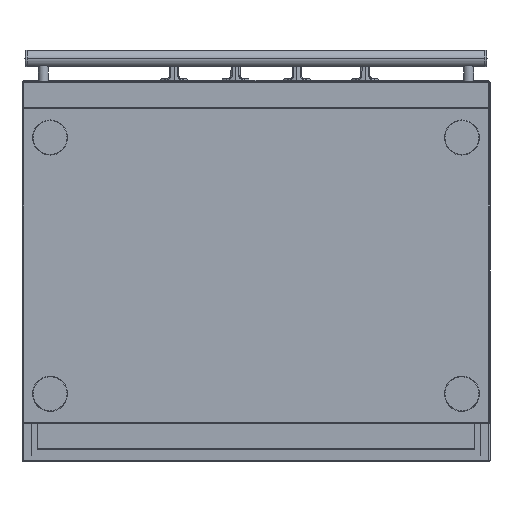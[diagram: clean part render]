
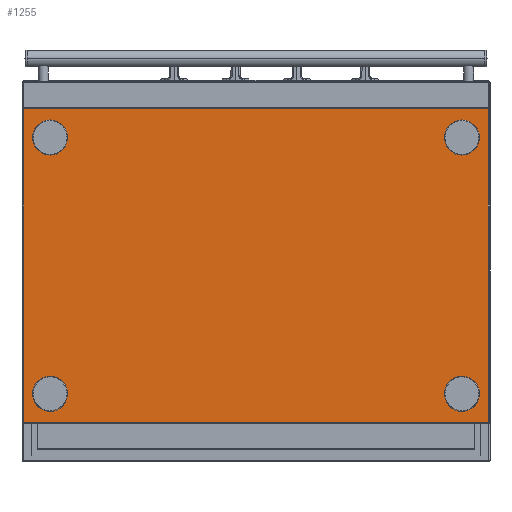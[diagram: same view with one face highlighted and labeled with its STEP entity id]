
A CAD part, front view. The second image highlights one B-rep face of the part: STEP entity #1255.
In plain terms, the highlighted planar face has unit normal (0, -1, 0).
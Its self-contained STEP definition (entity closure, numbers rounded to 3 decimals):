
#46=CARTESIAN_POINT('',(352.,-352.5,-219.));
#47=DIRECTION('',(0.,-1.,0.));
#48=DIRECTION('',(1.,0.,0.));
#49=AXIS2_PLACEMENT_3D('',#46,#47,#48);
#51=CARTESIAN_POINT('',(352.,-352.5,-219.));
#52=DIRECTION('',(0.,-1.,0.));
#53=DIRECTION('',(-1.,0.,0.));
#54=AXIS2_PLACEMENT_3D('',#51,#52,#53);
#56=CARTESIAN_POINT('',(352.,-352.5,219.));
#57=DIRECTION('',(0.,-1.,0.));
#58=DIRECTION('',(1.,0.,0.));
#59=AXIS2_PLACEMENT_3D('',#56,#57,#58);
#61=CARTESIAN_POINT('',(352.,-352.5,219.));
#62=DIRECTION('',(0.,-1.,0.));
#63=DIRECTION('',(-1.,0.,0.));
#64=AXIS2_PLACEMENT_3D('',#61,#62,#63);
#66=CARTESIAN_POINT('',(-352.,-352.5,-219.));
#67=DIRECTION('',(0.,1.,0.));
#68=DIRECTION('',(-1.,0.,0.));
#69=AXIS2_PLACEMENT_3D('',#66,#67,#68);
#71=CARTESIAN_POINT('',(-352.,-352.5,-219.));
#72=DIRECTION('',(0.,1.,0.));
#73=DIRECTION('',(1.,0.,0.));
#74=AXIS2_PLACEMENT_3D('',#71,#72,#73);
#76=CARTESIAN_POINT('',(-352.,-352.5,219.));
#77=DIRECTION('',(0.,1.,0.));
#78=DIRECTION('',(-1.,0.,0.));
#79=AXIS2_PLACEMENT_3D('',#76,#77,#78);
#81=CARTESIAN_POINT('',(-352.,-352.5,219.));
#82=DIRECTION('',(0.,1.,0.));
#83=DIRECTION('',(1.,0.,0.));
#84=AXIS2_PLACEMENT_3D('',#81,#82,#83);
#86=DIRECTION('',(0.,0.,-1.));
#87=VECTOR('',#86,536.4);
#88=CARTESIAN_POINT('',(397.2,-352.5,268.2));
#89=LINE('',#88,#87);
#90=DIRECTION('',(-1.,0.,0.));
#91=VECTOR('',#90,794.4);
#92=CARTESIAN_POINT('',(397.2,-352.5,-268.2));
#93=LINE('',#92,#91);
#94=DIRECTION('',(0.,0.,1.));
#95=VECTOR('',#94,536.4);
#96=CARTESIAN_POINT('',(-397.2,-352.5,-268.2));
#97=LINE('',#96,#95);
#98=DIRECTION('',(-1.,0.,0.));
#99=VECTOR('',#98,794.4);
#100=CARTESIAN_POINT('',(397.2,-352.5,268.2));
#101=LINE('',#100,#99);
#961=CARTESIAN_POINT('',(382.,-352.5,-219.));
#962=CARTESIAN_POINT('',(322.,-352.5,-219.));
#963=VERTEX_POINT('',#961);
#964=VERTEX_POINT('',#962);
#993=CARTESIAN_POINT('',(397.2,-352.5,268.2));
#994=CARTESIAN_POINT('',(397.2,-352.5,-268.2));
#995=VERTEX_POINT('',#993);
#996=VERTEX_POINT('',#994);
#999=CARTESIAN_POINT('',(-397.2,-352.5,268.2));
#1000=VERTEX_POINT('',#999);
#1003=CARTESIAN_POINT('',(-397.2,-352.5,-268.2));
#1004=VERTEX_POINT('',#1003);
#1061=CARTESIAN_POINT('',(382.,-352.5,219.));
#1062=CARTESIAN_POINT('',(322.,-352.5,219.));
#1063=VERTEX_POINT('',#1061);
#1064=VERTEX_POINT('',#1062);
#1069=CARTESIAN_POINT('',(-382.,-352.5,-219.));
#1070=VERTEX_POINT('',#1069);
#1071=CARTESIAN_POINT('',(-322.,-352.5,-219.));
#1072=VERTEX_POINT('',#1071);
#1077=CARTESIAN_POINT('',(-382.,-352.5,219.));
#1078=VERTEX_POINT('',#1077);
#1079=CARTESIAN_POINT('',(-322.,-352.5,219.));
#1080=VERTEX_POINT('',#1079);
#1217=CARTESIAN_POINT('',(-399.,-352.5,270.));
#1218=DIRECTION('',(0.,-1.,0.));
#1219=DIRECTION('',(0.,0.,-1.));
#1220=AXIS2_PLACEMENT_3D('',#1217,#1218,#1219);
#1221=PLANE('',#1220);
#1223=ORIENTED_EDGE('',*,*,#1222,.T.);
#1225=ORIENTED_EDGE('',*,*,#1224,.T.);
#1227=ORIENTED_EDGE('',*,*,#1226,.T.);
#1228=ORIENTED_EDGE('',*,*,#1206,.F.);
#1229=EDGE_LOOP('',(#1223,#1225,#1227,#1228));
#1230=FACE_OUTER_BOUND('',#1229,.F.);
#1232=ORIENTED_EDGE('',*,*,#1231,.T.);
#1234=ORIENTED_EDGE('',*,*,#1233,.T.);
#1235=EDGE_LOOP('',(#1232,#1234));
#1236=FACE_BOUND('',#1235,.F.);
#1238=ORIENTED_EDGE('',*,*,#1237,.F.);
#1240=ORIENTED_EDGE('',*,*,#1239,.F.);
#1241=EDGE_LOOP('',(#1238,#1240));
#1242=FACE_BOUND('',#1241,.F.);
#1244=ORIENTED_EDGE('',*,*,#1243,.F.);
#1246=ORIENTED_EDGE('',*,*,#1245,.F.);
#1247=EDGE_LOOP('',(#1244,#1246));
#1248=FACE_BOUND('',#1247,.F.);
#1250=ORIENTED_EDGE('',*,*,#1249,.T.);
#1252=ORIENTED_EDGE('',*,*,#1251,.T.);
#1253=EDGE_LOOP('',(#1250,#1252));
#1254=FACE_BOUND('',#1253,.F.);
#50=CIRCLE('',#49,30.);
#55=CIRCLE('',#54,30.);
#60=CIRCLE('',#59,30.);
#65=CIRCLE('',#64,30.);
#70=CIRCLE('',#69,30.);
#75=CIRCLE('',#74,30.);
#80=CIRCLE('',#79,30.);
#85=CIRCLE('',#84,30.);
#1206=EDGE_CURVE('',#995,#1000,#101,.T.);
#1222=EDGE_CURVE('',#995,#996,#89,.T.);
#1224=EDGE_CURVE('',#996,#1004,#93,.T.);
#1226=EDGE_CURVE('',#1004,#1000,#97,.T.);
#1231=EDGE_CURVE('',#1063,#1064,#60,.T.);
#1233=EDGE_CURVE('',#1064,#1063,#65,.T.);
#1237=EDGE_CURVE('',#1070,#1072,#70,.T.);
#1239=EDGE_CURVE('',#1072,#1070,#75,.T.);
#1243=EDGE_CURVE('',#1078,#1080,#80,.T.);
#1245=EDGE_CURVE('',#1080,#1078,#85,.T.);
#1249=EDGE_CURVE('',#963,#964,#50,.T.);
#1251=EDGE_CURVE('',#964,#963,#55,.T.);
#1255=ADVANCED_FACE('',(#1230,#1236,#1242,#1248,#1254),#1221,.T.);
